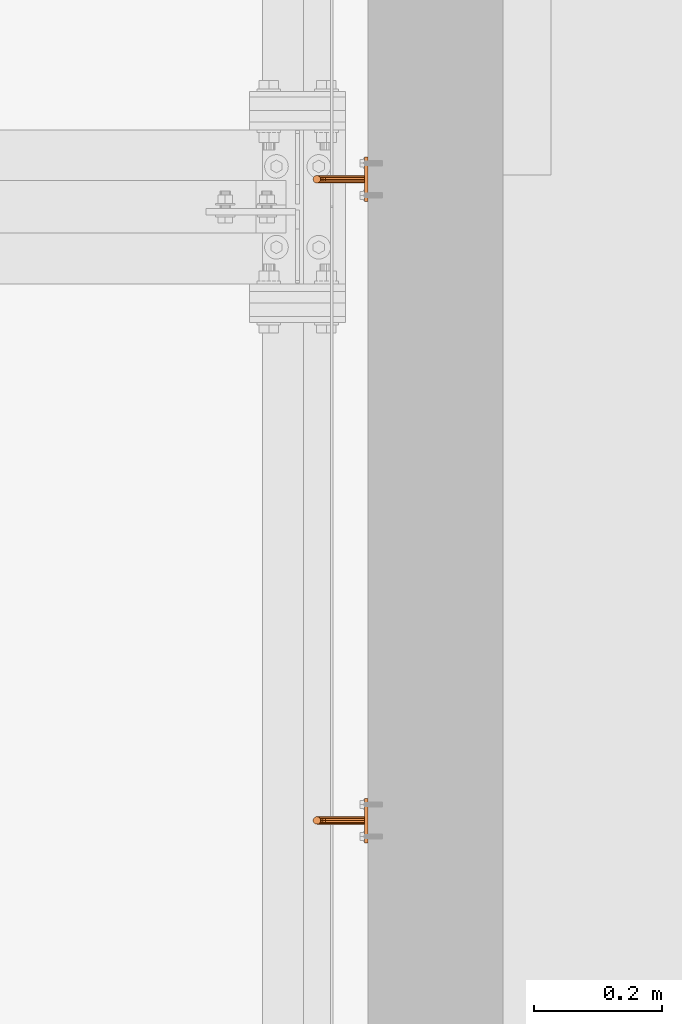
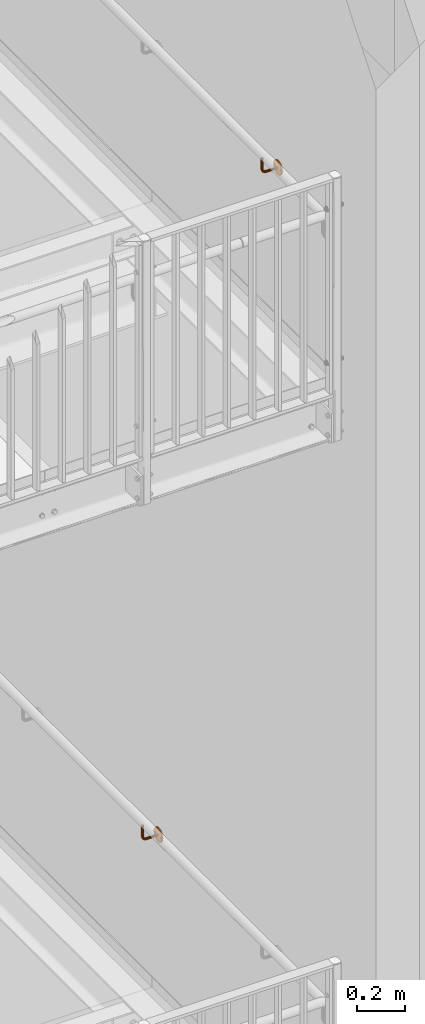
# One storey, part 388 of 410: 2 proxies.
"""IFC2X3 building model written with IfcOpenShell, lengths in millimetres."""

from ifc_helpers import new_model, entity, si_unit, converted_unit, origin_with_axes, place, context, project, spatial, faceted_brep, element, save


model = new_model("IFC2X3")

# Units and contexts
model_context = context("Model", 3, precision=1e-09, world=origin_with_axes())
ifc_project = project(units=[si_unit("LENGTHUNIT", "METRE", prefix="MILLI"), si_unit("AREAUNIT", "SQUARE_METRE"), si_unit("VOLUMEUNIT", "CUBIC_METRE"), converted_unit("PLANEANGLEUNIT", "DEGREE", entity("IfcPlaneAngleMeasure", 0.01745329), si_unit("PLANEANGLEUNIT", "RADIAN"), dimensions=[0, 0, 0, 0, 0, 0, 0])], contexts=[model_context])

# Site, building, storey
site_placement = place(None, origin_with_axes())
site = spatial("IfcSite", under=ifc_project, at=site_placement, Name="mKR Teilneubau & Sanierung BA1 - Ostfildern", CompositionType="ELEMENT")
building_placement = place(site_placement, origin_with_axes())
building = spatial("IfcBuilding", under=site, at=building_placement, Name="Struktur 1", CompositionType="ELEMENT")
storey_placement = place(building_placement, origin_with_axes())
storey = spatial("IfcBuildingStorey", under=building, at=storey_placement, Name="Default Storey", CompositionType="ELEMENT", Elevation=0.0)

# Proxies
proxy_1_placement = place(None, origin_with_axes())
element("IfcBuildingElementProxy", 1, at=proxy_1_placement, inside=storey, ObjectType="-", context=model_context, shape_type="Brep", body=[
    faceted_brep([(3289.999216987, 17051.680638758, 2647.7684785), (3283.999216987, 17051.680638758, 2647.7684785), (3283.999216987, 17052.250030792, 2645.6434785), (3289.999216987, 17052.250030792, 2645.6434785), (3283.999216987, 17003.856845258, 2674.944305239), (3283.999216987, 17014.408038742, 2679.572487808), (3283.999216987, 17025.890307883, 2680.523935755), (3283.999216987, 17037.059370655, 2677.695544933), (3283.999216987, 17046.704885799, 2671.393815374), (3283.999216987, 17053.781612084, 2662.301637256), (3283.999216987, 17057.522676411, 2651.40428916), (3283.999216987, 17057.522676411, 2639.88266784), (3283.999216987, 17053.781612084, 2628.985319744), (3283.999216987, 17046.704885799, 2619.893141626), (3283.999216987, 17037.059370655, 2613.591412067), (3283.999216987, 17025.890307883, 2610.763021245), (3283.999216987, 17014.408038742, 2611.714469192), (3283.999216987, 17003.856845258, 2616.342651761), (3283.999216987, 16995.380112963, 2624.146033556), (3283.999216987, 16989.896427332, 2634.278997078), (3283.999216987, 16988.000030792, 2645.6434785), (3283.999216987, 16989.896427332, 2657.007959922), (3283.999216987, 16995.380112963, 2667.140923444), (3283.999216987, 17050.125030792, 2649.324086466), (3283.999216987, 17048.000030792, 2649.8934785), (3283.999216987, 17045.875030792, 2649.324086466), (3283.999216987, 17044.319422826, 2647.7684785), (3283.999216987, 17043.750030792, 2645.6434785), (3283.999216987, 17044.319422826, 2643.5184785), (3283.999216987, 17045.875030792, 2641.962870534), (3283.999216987, 17048.000030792, 2641.3934785), (3283.999216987, 17050.125030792, 2641.962870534), (3283.999216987, 17051.680638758, 2643.5184785), (3283.999216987, 17001.680638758, 2647.7684785), (3283.999216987, 17000.125030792, 2649.324086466), (3283.999216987, 16998.000030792, 2649.8934785), (3283.999216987, 16995.875030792, 2649.324086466), (3283.999216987, 16994.319422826, 2647.7684785), (3283.999216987, 16993.750030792, 2645.6434785), (3283.999216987, 16994.319422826, 2643.5184785), (3283.999216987, 16995.875030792, 2641.962870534), (3283.999216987, 16998.000030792, 2641.3934785), (3283.999216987, 17000.125030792, 2641.962870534), (3283.999216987, 17001.680638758, 2643.5184785), (3283.999216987, 17002.250030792, 2645.6434785), (3289.999216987, 17050.125030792, 2649.324086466), (3289.999216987, 17003.856845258, 2616.342651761), (3289.999216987, 17014.408038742, 2611.714469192), (3289.999216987, 17025.890307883, 2610.763021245), (3289.999216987, 17037.059370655, 2613.591412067), (3289.999216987, 17046.704885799, 2619.893141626), (3289.999216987, 17053.781612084, 2628.985319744), (3289.999216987, 17057.522676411, 2639.88266784), (3289.999216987, 17057.522676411, 2651.40428916), (3289.999216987, 17053.781612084, 2662.301637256), (3289.999216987, 17046.704885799, 2671.393815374), (3289.999216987, 17037.059370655, 2677.695544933), (3289.999216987, 17025.890307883, 2680.523935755), (3289.999216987, 17014.408038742, 2679.572487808), (3289.999216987, 17003.856845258, 2674.944305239), (3289.999216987, 16995.380112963, 2667.140923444), (3289.999216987, 16989.896427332, 2657.007959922), (3289.999216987, 16988.000030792, 2645.6434785), (3289.999216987, 16989.896427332, 2634.278997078), (3289.999216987, 16995.380112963, 2624.146033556), (3289.999216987, 17051.680638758, 2643.5184785), (3289.999216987, 17050.125030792, 2641.962870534), (3289.999216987, 17048.000030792, 2641.3934785), (3289.999216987, 17045.875030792, 2641.962870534), (3289.999216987, 17044.319422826, 2643.5184785), (3289.999216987, 17043.750030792, 2645.6434785), (3289.999216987, 17044.319422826, 2647.7684785), (3289.999216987, 17045.875030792, 2649.324086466), (3289.999216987, 17048.000030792, 2649.8934785), (3289.999216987, 17001.680638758, 2643.5184785), (3289.999216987, 17000.125030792, 2641.962870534), (3289.999216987, 16998.000030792, 2641.3934785), (3289.999216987, 16995.875030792, 2641.962870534), (3289.999216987, 16994.319422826, 2643.5184785), (3289.999216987, 16993.750030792, 2645.6434785), (3289.999216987, 16994.319422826, 2647.7684785), (3289.999216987, 16995.875030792, 2649.324086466), (3289.999216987, 16998.000030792, 2649.8934785), (3289.999216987, 17000.125030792, 2649.324086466), (3289.999216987, 17001.680638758, 2647.7684785), (3289.999216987, 17002.250030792, 2645.6434785)], [[[0, 1, 2, 3]], [[4, 5, 6, 7, 8, 9, 10, 11, 12, 13, 14, 15, 16, 17, 18, 19, 20, 21, 22], [2, 1, 23, 24, 25, 26, 27, 28, 29, 30, 31, 32], [33, 34, 35, 36, 37, 38, 39, 40, 41, 42, 43, 44]], [[1, 0, 45, 23]], [[46, 47, 48, 49, 50, 51, 52, 53, 54, 55, 56, 57, 58, 59, 60, 61, 62, 63, 64], [0, 3, 65, 66, 67, 68, 69, 70, 71, 72, 73, 45], [74, 75, 76, 77, 78, 79, 80, 81, 82, 83, 84, 85]], [[3, 2, 32, 65]], [[10, 53, 52, 11]], [[65, 32, 31, 66]], [[23, 45, 73, 24]], [[53, 10, 9, 54]], [[66, 31, 30, 67]], [[11, 52, 51, 12]], [[24, 73, 72, 25]], [[8, 55, 54, 9]], [[67, 30, 29, 68]], [[55, 8, 7, 56]], [[50, 13, 12, 51]], [[25, 72, 71, 26]], [[13, 50, 49, 14]], [[68, 29, 28, 69]], [[26, 71, 70, 27]], [[56, 7, 6, 57]], [[69, 28, 27, 70]], [[14, 49, 48, 15]], [[57, 6, 5, 58]], [[44, 85, 84, 33]], [[15, 48, 47, 16]], [[85, 44, 43, 74]], [[33, 84, 83, 34]], [[58, 5, 4, 59]], [[16, 47, 46, 17]], [[74, 43, 42, 75]], [[34, 83, 82, 35]], [[59, 4, 22, 60]], [[17, 46, 64, 18]], [[75, 42, 41, 76]], [[35, 82, 81, 36]], [[60, 22, 21, 61]], [[18, 64, 63, 19]], [[76, 41, 40, 77]], [[20, 62, 61, 21]], [[36, 81, 80, 37]], [[62, 20, 19, 63]], [[77, 40, 39, 78]], [[37, 80, 79, 38]], [[78, 39, 38, 79]]]),
    faceted_brep([(3227.999216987, 17017.000030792, 2645.6434785), (3283.999216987, 17017.000030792, 2645.6434785), (3283.999216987, 17017.803878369, 2648.6434785), (3227.999216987, 17017.803878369, 2648.6434785), (3206.999216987, 17017.803878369, 2663.6434785), (3206.999216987, 17017.803878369, 2720.6434785), (3204.803064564, 17020.000030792, 2720.6434785), (3204.803064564, 17020.000030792, 2663.6434785), (3209.999216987, 17017.000030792, 2663.6434785), (3209.999216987, 17017.000030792, 2720.6434785), (3206.56876653, 17020.000030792, 2654.766695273), (3208.597746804, 17017.803878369, 2655.60712642), (3283.999216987, 17026.000030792, 2640.447326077), (3283.999216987, 17028.196183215, 2642.6434785), (3283.999216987, 17029.000030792, 2645.6434785), (3283.999216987, 17028.196183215, 2648.6434785), (3283.999216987, 17026.000030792, 2650.839630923), (3283.999216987, 17023.000030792, 2651.6434785), (3283.999216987, 17020.000030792, 2650.839630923), (3283.999216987, 17017.803878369, 2642.6434785), (3283.999216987, 17020.000030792, 2640.447326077), (3283.999216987, 17023.000030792, 2639.6434785), (3227.999216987, 17017.803878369, 2642.6434785), (3222.258965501, 17017.803878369, 2649.785285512), (3221.110915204, 17017.000030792, 2647.013646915), (3215.195369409, 17026.000030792, 2720.6434785), (3212.999216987, 17028.196183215, 2720.6434785), (3209.999216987, 17029.000030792, 2720.6434785), (3206.999216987, 17028.196183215, 2720.6434785), (3204.803064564, 17026.000030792, 2720.6434785), (3203.999216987, 17023.000030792, 2720.6434785), (3212.999216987, 17017.803878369, 2720.6434785), (3215.195369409, 17020.000030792, 2720.6434785), (3215.999216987, 17023.000030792, 2720.6434785), (3211.369385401, 17017.000030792, 2656.755176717), (3213.149974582, 17017.803878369, 2648.794236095), (3215.271294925, 17017.000030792, 2650.915556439), (3227.999216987, 17020.000030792, 2650.839630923), (3219.962864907, 17017.803878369, 2644.242008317), (3203.999216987, 17023.000030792, 2663.6434785), (3212.999216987, 17017.803878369, 2663.6434785), (3205.826108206, 17023.000030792, 2654.459076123), (3211.597060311, 17020.000030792, 2647.241321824), (3217.392615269, 17017.803878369, 2653.036876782), (3223.099396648, 17020.000030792, 2651.814265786), (3227.999216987, 17020.000030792, 2640.447326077), (3214.141023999, 17017.803878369, 2657.903227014), (3227.999216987, 17023.000030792, 2651.6434785), (3219.12243376, 17020.000030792, 2642.213028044), (3204.803064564, 17026.000030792, 2663.6434785), (3215.195369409, 17020.000030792, 2663.6434785), (3206.56876653, 17026.000030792, 2654.766695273), (3211.028654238, 17023.000030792, 2646.672915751), (3218.945529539, 17020.000030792, 2654.589791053), (3223.407015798, 17023.000030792, 2652.55692411), (3227.999216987, 17023.000030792, 2639.6434785), (3216.170004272, 17020.000030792, 2658.743658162), (3206.999216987, 17028.196183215, 2663.6434785), (3227.999216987, 17026.000030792, 2650.839630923), (3218.81481461, 17023.000030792, 2641.47036972), (3215.999216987, 17023.000030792, 2663.6434785), (3208.597746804, 17028.196183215, 2655.60712642), (3211.597060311, 17026.000030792, 2647.241321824), (3219.513935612, 17023.000030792, 2655.158197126), (3223.099396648, 17026.000030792, 2651.814265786), (3227.999216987, 17026.000030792, 2640.447326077), (3216.912662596, 17023.000030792, 2659.051277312), (3209.999216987, 17029.000030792, 2663.6434785), (3227.999216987, 17028.196183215, 2648.6434785), (3219.12243376, 17026.000030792, 2642.213028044), (3215.195369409, 17026.000030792, 2663.6434785), (3212.999216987, 17028.196183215, 2663.6434785), (3211.369385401, 17029.000030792, 2656.755176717), (3213.149974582, 17028.196183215, 2648.794236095), (3218.945529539, 17026.000030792, 2654.589791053), (3222.258965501, 17028.196183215, 2649.785285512), (3227.999216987, 17029.000030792, 2645.6434785), (3227.999216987, 17028.196183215, 2642.6434785), (3216.170004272, 17026.000030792, 2658.743658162), (3219.962864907, 17028.196183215, 2644.242008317), (3214.141023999, 17028.196183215, 2657.903227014), (3215.271294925, 17029.000030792, 2650.915556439), (3221.110915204, 17029.000030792, 2647.013646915), (3217.392615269, 17028.196183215, 2653.036876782)], [[[0, 1, 2, 3]], [[4, 5, 6, 7]], [[5, 4, 8, 9]], [[4, 7, 10, 11]], [[12, 13, 14, 15, 16, 17, 18, 2, 1, 19, 20, 21]], [[1, 0, 22, 19]], [[0, 3, 23, 24]], [[25, 26, 27, 28, 29, 30, 6, 5, 9, 31, 32, 33]], [[11, 34, 8, 4]], [[35, 36, 34, 11]], [[3, 2, 18, 37]], [[24, 38, 22, 0]], [[36, 35, 38, 24]], [[7, 6, 30, 39]], [[9, 8, 40, 31]], [[7, 39, 41, 10]], [[11, 10, 42, 35]], [[24, 23, 43, 36]], [[3, 37, 44, 23]], [[19, 22, 45, 20]], [[36, 43, 46, 34]], [[34, 46, 40, 8]], [[37, 18, 17, 47]], [[38, 48, 45, 22]], [[35, 42, 48, 38]], [[39, 30, 29, 49]], [[31, 40, 50, 32]], [[39, 49, 51, 41]], [[10, 41, 52, 42]], [[23, 44, 53, 43]], [[37, 47, 54, 44]], [[20, 45, 55, 21]], [[43, 53, 56, 46]], [[46, 56, 50, 40]], [[49, 29, 28, 57]], [[47, 17, 16, 58]], [[48, 59, 55, 45]], [[42, 52, 59, 48]], [[32, 50, 60, 33]], [[49, 57, 61, 51]], [[41, 51, 62, 52]], [[44, 54, 63, 53]], [[47, 58, 64, 54]], [[21, 55, 65, 12]], [[56, 66, 60, 50]], [[53, 63, 66, 56]], [[57, 28, 27, 67]], [[58, 16, 15, 68]], [[59, 69, 65, 55]], [[52, 62, 69, 59]], [[33, 60, 70, 25]], [[26, 71, 67, 27]], [[25, 70, 71, 26]], [[57, 67, 72, 61]], [[51, 61, 73, 62]], [[54, 64, 74, 63]], [[58, 68, 75, 64]], [[14, 76, 68, 15]], [[13, 77, 76, 14]], [[12, 65, 77, 13]], [[66, 78, 70, 60]], [[63, 74, 78, 66]], [[69, 79, 77, 65]], [[62, 73, 79, 69]], [[67, 71, 80, 72]], [[71, 70, 78, 80]], [[61, 72, 81, 73]], [[68, 76, 82, 75]], [[64, 75, 83, 74]], [[76, 77, 79, 82]], [[74, 83, 80, 78]], [[73, 81, 82, 79]], [[72, 80, 83, 81]], [[75, 82, 81, 83]]]),
])
proxy_2_placement = place(None, origin_with_axes())
element("IfcBuildingElementProxy", 2, at=proxy_2_placement, inside=storey, ObjectType="-", context=model_context, shape_type="Brep", body=[
    faceted_brep([(3289.999216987, 16051.680638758, 6659.725), (3283.999216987, 16051.680638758, 6659.725), (3283.999216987, 16052.250030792, 6657.6), (3289.999216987, 16052.250030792, 6657.6), (3283.999216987, 16003.856845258, 6686.900826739), (3283.999216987, 16014.408038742, 6691.529009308), (3283.999216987, 16025.890307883, 6692.480457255), (3283.999216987, 16037.059370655, 6689.652066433), (3283.999216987, 16046.704885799, 6683.350336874), (3283.999216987, 16053.781612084, 6674.258158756), (3283.999216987, 16057.522676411, 6663.36081066), (3283.999216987, 16057.522676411, 6651.83918934), (3283.999216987, 16053.781612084, 6640.941841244), (3283.999216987, 16046.704885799, 6631.849663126), (3283.999216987, 16037.059370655, 6625.547933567), (3283.999216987, 16025.890307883, 6622.719542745), (3283.999216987, 16014.408038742, 6623.670990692), (3283.999216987, 16003.856845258, 6628.299173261), (3283.999216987, 15995.380112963, 6636.102555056), (3283.999216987, 15989.896427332, 6646.235518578), (3283.999216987, 15988.000030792, 6657.6), (3283.999216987, 15989.896427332, 6668.964481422), (3283.999216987, 15995.380112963, 6679.097444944), (3283.999216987, 16050.125030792, 6661.280607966), (3283.999216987, 16048.000030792, 6661.85), (3283.999216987, 16045.875030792, 6661.280607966), (3283.999216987, 16044.319422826, 6659.725), (3283.999216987, 16043.750030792, 6657.6), (3283.999216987, 16044.319422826, 6655.475), (3283.999216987, 16045.875030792, 6653.919392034), (3283.999216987, 16048.000030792, 6653.35), (3283.999216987, 16050.125030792, 6653.919392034), (3283.999216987, 16051.680638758, 6655.475), (3283.999216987, 16001.680638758, 6659.725), (3283.999216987, 16000.125030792, 6661.280607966), (3283.999216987, 15998.000030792, 6661.85), (3283.999216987, 15995.875030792, 6661.280607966), (3283.999216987, 15994.319422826, 6659.725), (3283.999216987, 15993.750030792, 6657.6), (3283.999216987, 15994.319422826, 6655.475), (3283.999216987, 15995.875030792, 6653.919392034), (3283.999216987, 15998.000030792, 6653.35), (3283.999216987, 16000.125030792, 6653.919392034), (3283.999216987, 16001.680638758, 6655.475), (3283.999216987, 16002.250030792, 6657.6), (3289.999216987, 16050.125030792, 6661.280607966), (3289.999216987, 16003.856845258, 6628.299173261), (3289.999216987, 16014.408038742, 6623.670990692), (3289.999216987, 16025.890307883, 6622.719542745), (3289.999216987, 16037.059370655, 6625.547933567), (3289.999216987, 16046.704885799, 6631.849663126), (3289.999216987, 16053.781612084, 6640.941841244), (3289.999216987, 16057.522676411, 6651.83918934), (3289.999216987, 16057.522676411, 6663.36081066), (3289.999216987, 16053.781612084, 6674.258158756), (3289.999216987, 16046.704885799, 6683.350336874), (3289.999216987, 16037.059370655, 6689.652066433), (3289.999216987, 16025.890307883, 6692.480457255), (3289.999216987, 16014.408038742, 6691.529009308), (3289.999216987, 16003.856845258, 6686.900826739), (3289.999216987, 15995.380112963, 6679.097444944), (3289.999216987, 15989.896427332, 6668.964481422), (3289.999216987, 15988.000030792, 6657.6), (3289.999216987, 15989.896427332, 6646.235518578), (3289.999216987, 15995.380112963, 6636.102555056), (3289.999216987, 16051.680638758, 6655.475), (3289.999216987, 16050.125030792, 6653.919392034), (3289.999216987, 16048.000030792, 6653.35), (3289.999216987, 16045.875030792, 6653.919392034), (3289.999216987, 16044.319422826, 6655.475), (3289.999216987, 16043.750030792, 6657.6), (3289.999216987, 16044.319422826, 6659.725), (3289.999216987, 16045.875030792, 6661.280607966), (3289.999216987, 16048.000030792, 6661.85), (3289.999216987, 16001.680638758, 6655.475), (3289.999216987, 16000.125030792, 6653.919392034), (3289.999216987, 15998.000030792, 6653.35), (3289.999216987, 15995.875030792, 6653.919392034), (3289.999216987, 15994.319422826, 6655.475), (3289.999216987, 15993.750030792, 6657.6), (3289.999216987, 15994.319422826, 6659.725), (3289.999216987, 15995.875030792, 6661.280607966), (3289.999216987, 15998.000030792, 6661.85), (3289.999216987, 16000.125030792, 6661.280607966), (3289.999216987, 16001.680638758, 6659.725), (3289.999216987, 16002.250030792, 6657.6)], [[[0, 1, 2, 3]], [[4, 5, 6, 7, 8, 9, 10, 11, 12, 13, 14, 15, 16, 17, 18, 19, 20, 21, 22], [2, 1, 23, 24, 25, 26, 27, 28, 29, 30, 31, 32], [33, 34, 35, 36, 37, 38, 39, 40, 41, 42, 43, 44]], [[1, 0, 45, 23]], [[46, 47, 48, 49, 50, 51, 52, 53, 54, 55, 56, 57, 58, 59, 60, 61, 62, 63, 64], [0, 3, 65, 66, 67, 68, 69, 70, 71, 72, 73, 45], [74, 75, 76, 77, 78, 79, 80, 81, 82, 83, 84, 85]], [[3, 2, 32, 65]], [[10, 53, 52, 11]], [[65, 32, 31, 66]], [[23, 45, 73, 24]], [[53, 10, 9, 54]], [[66, 31, 30, 67]], [[11, 52, 51, 12]], [[24, 73, 72, 25]], [[8, 55, 54, 9]], [[67, 30, 29, 68]], [[55, 8, 7, 56]], [[50, 13, 12, 51]], [[25, 72, 71, 26]], [[13, 50, 49, 14]], [[68, 29, 28, 69]], [[26, 71, 70, 27]], [[56, 7, 6, 57]], [[69, 28, 27, 70]], [[14, 49, 48, 15]], [[57, 6, 5, 58]], [[44, 85, 84, 33]], [[15, 48, 47, 16]], [[85, 44, 43, 74]], [[33, 84, 83, 34]], [[58, 5, 4, 59]], [[16, 47, 46, 17]], [[74, 43, 42, 75]], [[34, 83, 82, 35]], [[59, 4, 22, 60]], [[17, 46, 64, 18]], [[75, 42, 41, 76]], [[35, 82, 81, 36]], [[60, 22, 21, 61]], [[18, 64, 63, 19]], [[76, 41, 40, 77]], [[20, 62, 61, 21]], [[36, 81, 80, 37]], [[62, 20, 19, 63]], [[77, 40, 39, 78]], [[37, 80, 79, 38]], [[78, 39, 38, 79]]]),
    faceted_brep([(3227.999216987, 16017.000030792, 6657.6), (3283.999216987, 16017.000030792, 6657.6), (3283.999216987, 16017.803878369, 6660.6), (3227.999216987, 16017.803878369, 6660.6), (3206.999216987, 16017.803878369, 6675.6), (3206.999216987, 16017.803878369, 6732.6), (3204.803064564, 16020.000030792, 6732.6), (3204.803064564, 16020.000030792, 6675.6), (3209.999216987, 16017.000030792, 6675.6), (3209.999216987, 16017.000030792, 6732.6), (3206.56876653, 16020.000030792, 6666.723216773), (3208.597746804, 16017.803878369, 6667.56364792), (3283.999216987, 16026.000030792, 6652.403847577), (3283.999216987, 16028.196183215, 6654.6), (3283.999216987, 16029.000030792, 6657.6), (3283.999216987, 16028.196183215, 6660.6), (3283.999216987, 16026.000030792, 6662.796152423), (3283.999216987, 16023.000030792, 6663.6), (3283.999216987, 16020.000030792, 6662.796152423), (3283.999216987, 16017.803878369, 6654.6), (3283.999216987, 16020.000030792, 6652.403847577), (3283.999216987, 16023.000030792, 6651.6), (3227.999216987, 16017.803878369, 6654.6), (3222.258965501, 16017.803878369, 6661.741807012), (3221.110915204, 16017.000030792, 6658.970168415), (3215.195369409, 16026.000030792, 6732.6), (3212.999216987, 16028.196183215, 6732.6), (3209.999216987, 16029.000030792, 6732.6), (3206.999216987, 16028.196183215, 6732.6), (3204.803064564, 16026.000030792, 6732.6), (3203.999216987, 16023.000030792, 6732.6), (3212.999216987, 16017.803878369, 6732.6), (3215.195369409, 16020.000030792, 6732.6), (3215.999216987, 16023.000030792, 6732.6), (3211.369385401, 16017.000030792, 6668.711698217), (3213.149974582, 16017.803878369, 6660.750757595), (3215.271294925, 16017.000030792, 6662.872077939), (3227.999216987, 16020.000030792, 6662.796152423), (3219.962864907, 16017.803878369, 6656.198529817), (3203.999216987, 16023.000030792, 6675.6), (3212.999216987, 16017.803878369, 6675.6), (3205.826108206, 16023.000030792, 6666.415597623), (3211.597060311, 16020.000030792, 6659.197843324), (3217.392615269, 16017.803878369, 6664.993398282), (3223.099396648, 16020.000030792, 6663.770787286), (3227.999216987, 16020.000030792, 6652.403847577), (3214.141023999, 16017.803878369, 6669.859748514), (3227.999216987, 16023.000030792, 6663.6), (3219.12243376, 16020.000030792, 6654.169549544), (3204.803064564, 16026.000030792, 6675.6), (3215.195369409, 16020.000030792, 6675.6), (3206.56876653, 16026.000030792, 6666.723216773), (3211.028654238, 16023.000030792, 6658.629437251), (3218.945529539, 16020.000030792, 6666.546312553), (3223.407015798, 16023.000030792, 6664.51344561), (3227.999216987, 16023.000030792, 6651.6), (3216.170004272, 16020.000030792, 6670.700179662), (3206.999216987, 16028.196183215, 6675.6), (3227.999216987, 16026.000030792, 6662.796152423), (3218.81481461, 16023.000030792, 6653.42689122), (3215.999216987, 16023.000030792, 6675.6), (3208.597746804, 16028.196183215, 6667.56364792), (3211.597060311, 16026.000030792, 6659.197843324), (3219.513935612, 16023.000030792, 6667.114718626), (3223.099396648, 16026.000030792, 6663.770787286), (3227.999216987, 16026.000030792, 6652.403847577), (3216.912662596, 16023.000030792, 6671.007798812), (3209.999216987, 16029.000030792, 6675.6), (3227.999216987, 16028.196183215, 6660.6), (3219.12243376, 16026.000030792, 6654.169549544), (3215.195369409, 16026.000030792, 6675.6), (3212.999216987, 16028.196183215, 6675.6), (3211.369385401, 16029.000030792, 6668.711698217), (3213.149974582, 16028.196183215, 6660.750757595), (3218.945529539, 16026.000030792, 6666.546312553), (3222.258965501, 16028.196183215, 6661.741807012), (3227.999216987, 16029.000030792, 6657.6), (3227.999216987, 16028.196183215, 6654.6), (3216.170004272, 16026.000030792, 6670.700179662), (3219.962864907, 16028.196183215, 6656.198529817), (3214.141023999, 16028.196183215, 6669.859748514), (3215.271294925, 16029.000030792, 6662.872077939), (3221.110915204, 16029.000030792, 6658.970168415), (3217.392615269, 16028.196183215, 6664.993398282)], [[[0, 1, 2, 3]], [[4, 5, 6, 7]], [[5, 4, 8, 9]], [[4, 7, 10, 11]], [[12, 13, 14, 15, 16, 17, 18, 2, 1, 19, 20, 21]], [[1, 0, 22, 19]], [[0, 3, 23, 24]], [[25, 26, 27, 28, 29, 30, 6, 5, 9, 31, 32, 33]], [[11, 34, 8, 4]], [[35, 36, 34, 11]], [[3, 2, 18, 37]], [[24, 38, 22, 0]], [[36, 35, 38, 24]], [[7, 6, 30, 39]], [[9, 8, 40, 31]], [[7, 39, 41, 10]], [[11, 10, 42, 35]], [[24, 23, 43, 36]], [[3, 37, 44, 23]], [[19, 22, 45, 20]], [[36, 43, 46, 34]], [[34, 46, 40, 8]], [[37, 18, 17, 47]], [[38, 48, 45, 22]], [[35, 42, 48, 38]], [[39, 30, 29, 49]], [[31, 40, 50, 32]], [[39, 49, 51, 41]], [[10, 41, 52, 42]], [[23, 44, 53, 43]], [[37, 47, 54, 44]], [[20, 45, 55, 21]], [[43, 53, 56, 46]], [[46, 56, 50, 40]], [[49, 29, 28, 57]], [[47, 17, 16, 58]], [[48, 59, 55, 45]], [[42, 52, 59, 48]], [[32, 50, 60, 33]], [[49, 57, 61, 51]], [[41, 51, 62, 52]], [[44, 54, 63, 53]], [[47, 58, 64, 54]], [[21, 55, 65, 12]], [[56, 66, 60, 50]], [[53, 63, 66, 56]], [[57, 28, 27, 67]], [[58, 16, 15, 68]], [[59, 69, 65, 55]], [[52, 62, 69, 59]], [[33, 60, 70, 25]], [[26, 71, 67, 27]], [[25, 70, 71, 26]], [[57, 67, 72, 61]], [[51, 61, 73, 62]], [[54, 64, 74, 63]], [[58, 68, 75, 64]], [[14, 76, 68, 15]], [[13, 77, 76, 14]], [[12, 65, 77, 13]], [[66, 78, 70, 60]], [[63, 74, 78, 66]], [[69, 79, 77, 65]], [[62, 73, 79, 69]], [[67, 71, 80, 72]], [[71, 70, 78, 80]], [[61, 72, 81, 73]], [[68, 76, 82, 75]], [[64, 75, 83, 74]], [[76, 77, 79, 82]], [[74, 83, 80, 78]], [[73, 81, 82, 79]], [[72, 80, 83, 81]], [[75, 82, 81, 83]]]),
])

save(model, "model.ifc")
